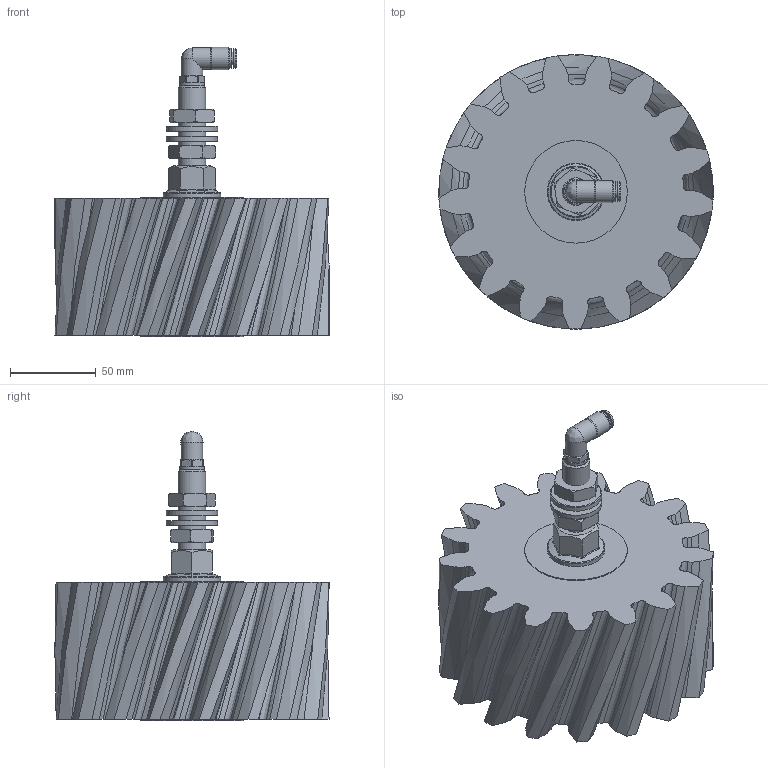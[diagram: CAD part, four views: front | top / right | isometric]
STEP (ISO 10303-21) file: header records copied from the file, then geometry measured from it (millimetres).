
FILE_DESCRIPTION (( 'STEP AP214' ), '1' );
FILE_NAME ('012_13_08_80_17ARZ.STEP', '2026-04-14T12:44:16', ( '' ), ( '' ), 'SwSTEP 2.0', 'SolidWorks 2022', '' );
FILE_SCHEMA (( 'AUTOMOTIVE_DESIGN' ));
Length unit declared in the file: millimetre
Products named in the file (12): DR6-C_HDX_25.07.16_1; 012_06_02_Scheibe-groß.SLDASM; Achse_M16_Schmierzahnrad; RIVOLUZIONE_0_2; Senkkopfschraube_M6; RH202242; Modul_8_S_R; Mutter_M16; H202242_HDS022_6_M10X1_08.05.17(1); 012_13_08_80_17ARZ; OR 7.2X1.9_1; Scheibe_M16
Assembly tree (13 placements, depth 3):
  012_13_08_80_17ARZ
    Achse_M16_Schmierzahnrad
    012_06_02_Scheibe-groß.SLDASM
    Senkkopfschraube_M6
    Mutter_M16  x2
    Scheibe_M16  x2
    H202242_HDS022_6_M10X1_08.05.17(1)
      OR 7.2X1.9_1
      RH202242
      DR6-C_HDX_25.07.16_1
      RIVOLUZIONE_0_2
    Modul_8_S_R
Bounding box: 160.14 x 160.24 x 169 mm (x, y, z)
Volume: 1334259.9 mm3; surface area: 131177.7 mm2
Topology: 12 solids, 12 shells, 692 faces, 1858 edges, 1228 vertices
Faces by surface type: plane 328, bspline 244, cone 62, cylinder 55, torus 3
Full cylindrical faces by diameter (mm): 4 x2, 5 x1, 6 x1, 6.2 x1, 6.3 x1, 7.2 x1, 8.5 x1, 8.92 x2, 9 x2, 9.9 x1, 10 x2, 10.1 x2, 10.3 x1, 11.5 x1, 11.7 x1, 12.5 x2, 13 x1, 14 x2, 14.5 x1, 16 x1, 17 x2, 30 x2, 33.6 x1, 60 x2
Entity records: 63341 total; most frequent: CARTESIAN_POINT 47945, ORIENTED_EDGE 3356, DIRECTION 1992, EDGE_CURVE 1678, VERTEX_POINT 1145, VECTOR 800, LINE 800, EDGE_LOOP 785
